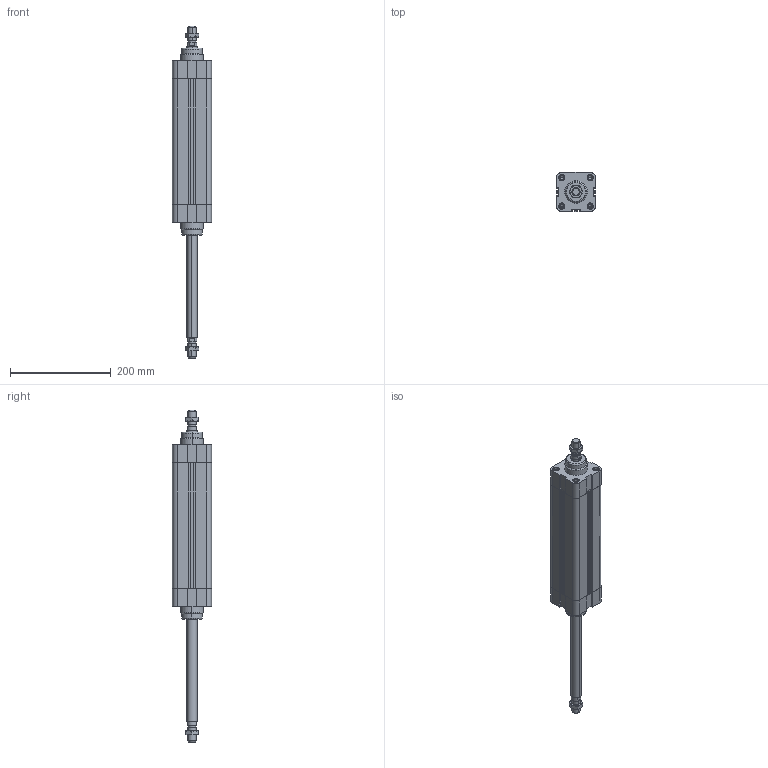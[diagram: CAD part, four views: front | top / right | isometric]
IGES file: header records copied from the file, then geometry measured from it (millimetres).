
Global section: file name: No Iges File Name specified; native system: Autodesk Inventor 2010; preprocessor: AutoDesk Inventor Iges Exporter R2010; author: rivolro1; date: 20090707.105803; units: millimetre
Bounding box: 77.5 x 77.5 x 659 mm (x, y, z)
Volume: 1426603.8 mm3; surface area: 269344 mm2
Topology: 6 solids, 6 shells, 343 faces, 810 edges, 508 vertices
Faces by surface type: plane 137, bspline 86, cylinder 58, cone 38, revolution 20, torus 4
